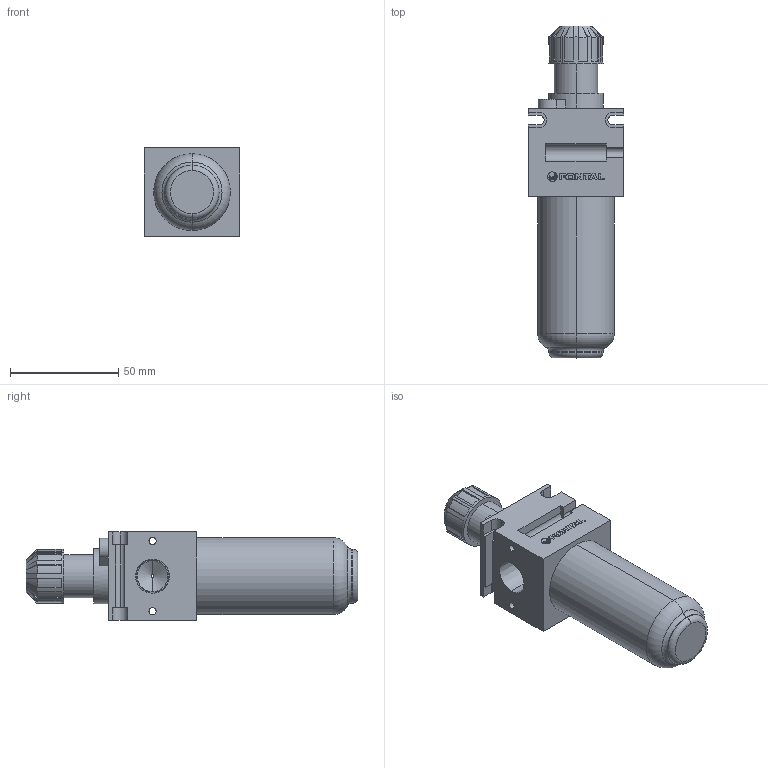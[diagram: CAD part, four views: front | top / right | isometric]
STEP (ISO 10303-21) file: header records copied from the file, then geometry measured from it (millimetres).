
FILE_DESCRIPTION (( 'STEP AP203' ), '1' );
FILE_NAME ('L45-03#.STEP', '2016-02-03T06:29:39', ( '' ), ( '' ), 'SwSTEP 2.0', 'SolidWorks 2014', '' );
FILE_SCHEMA (( 'CONFIG_CONTROL_DESIGN' ));
Length unit declared in the file: millimetre
Products named in the file (9): F45-MARK; L45-03#; L45-03; L45-2; L45=03; L45-1; F45-2; L508-5
Assembly tree (8 placements, depth 3):
  L45-03#
    (unnamed)
      L45-2
      L45-1
      L508-5
    L45=03
      F45-2
      F45-MARK
      L45-03
Bounding box: 44 x 153.5 x 41.12 mm (x, y, z)
Volume: 143895 mm3; surface area: 29592.3 mm2
Topology: 12 solids, 12 shells, 297 faces, 790 edges, 522 vertices
Faces by surface type: plane 191, cylinder 72, cone 20, bspline 8, torus 6
Entity records: 10263 total; most frequent: CARTESIAN_POINT 1840, ORIENTED_EDGE 1580, DIRECTION 1528, EDGE_CURVE 790, VECTOR 548, LINE 548, VERTEX_POINT 522, AXIS2_PLACEMENT_3D 490
